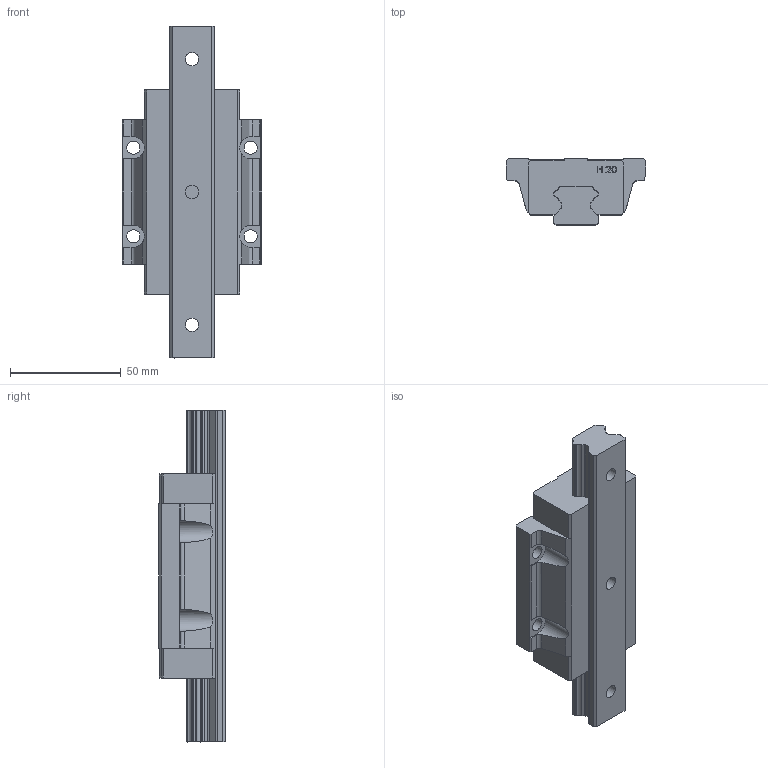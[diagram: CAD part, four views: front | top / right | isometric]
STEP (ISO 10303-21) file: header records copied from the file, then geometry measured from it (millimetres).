
FILE_DESCRIPTION(/* description */ (''),/* implementation_level */ '2;1');
FILE_NAME(/* name */ 'HGW20HC.stp',/* time_stamp */ '2021-05-18T22:52:04+08:00',/* author */ (''),/* organization */ (''),/* preprocessor_version */ 'ST-DEVELOPER v15',/* originating_system */ 'SIEMENS PLM Software NX 8.5',/* authorisation */ '');
FILE_SCHEMA (('CONFIG_CONTROL_DESIGN'));
Length unit declared in the file: millimetre
Products named in the file (1): _model2
Bounding box: 63 x 30 x 150 mm (x, y, z)
Volume: 137201.1 mm3; surface area: 33380.5 mm2
Topology: 2 solids, 2 shells, 269 faces, 769 edges, 511 vertices
Faces by surface type: plane 203, cylinder 66
Full cylindrical faces by diameter (mm): 6 x7, 9.5 x3
Entity records: 8825 total; most frequent: CARTESIAN_POINT 1615, ORIENTED_EDGE 1516, DIRECTION 1425, EDGE_CURVE 758, LINE 605, VECTOR 605, VERTEX_POINT 510, AXIS2_PLACEMENT_3D 410
